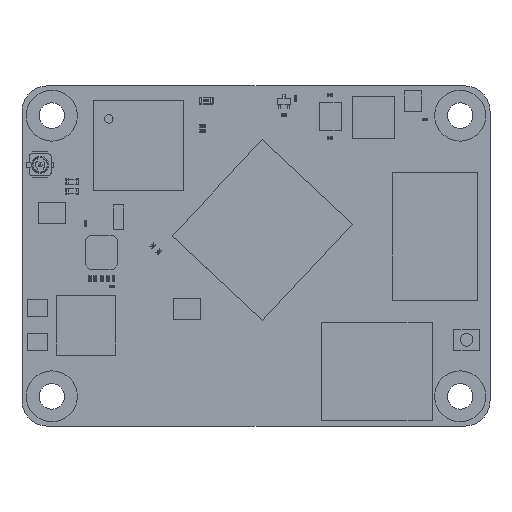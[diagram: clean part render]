
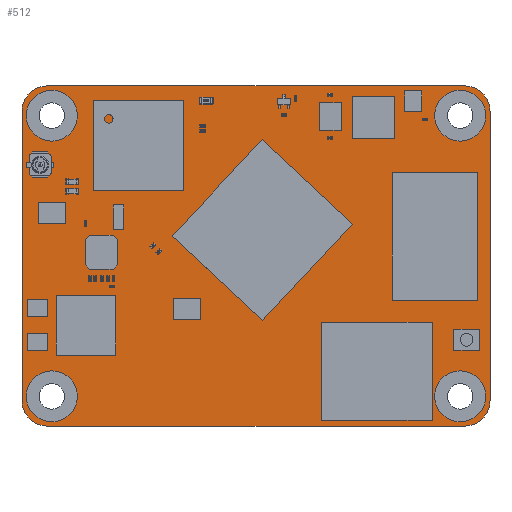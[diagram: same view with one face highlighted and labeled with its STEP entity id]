
A CAD part, top view. The second image highlights one B-rep face of the part: STEP entity #512.
In plain terms, the highlighted planar face has unit normal (0, 0, 1).
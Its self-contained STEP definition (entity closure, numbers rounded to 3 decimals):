
#40=CARTESIAN_POINT('',(3.5,36.5,1.2));
#41=DIRECTION('',(0.,0.,1.));
#42=DIRECTION('',(1.,0.,0.));
#43=AXIS2_PLACEMENT_3D('',#40,#41,#42);
#49=CARTESIAN_POINT('',(3.5,36.5,1.2));
#50=DIRECTION('',(0.,0.,1.));
#51=DIRECTION('',(-1.,0.,0.));
#52=AXIS2_PLACEMENT_3D('',#49,#50,#51);
#57=CARTESIAN_POINT('',(51.5,36.5,1.2));
#58=DIRECTION('',(0.,0.,1.));
#59=DIRECTION('',(1.,0.,0.));
#60=AXIS2_PLACEMENT_3D('',#57,#58,#59);
#65=CARTESIAN_POINT('',(51.5,36.5,1.2));
#66=DIRECTION('',(0.,0.,1.));
#67=DIRECTION('',(-1.,0.,0.));
#68=AXIS2_PLACEMENT_3D('',#65,#66,#67);
#73=CARTESIAN_POINT('',(3.5,3.5,1.2));
#74=DIRECTION('',(0.,0.,1.));
#75=DIRECTION('',(1.,0.,0.));
#76=AXIS2_PLACEMENT_3D('',#73,#74,#75);
#81=CARTESIAN_POINT('',(3.5,3.5,1.2));
#82=DIRECTION('',(0.,0.,1.));
#83=DIRECTION('',(-1.,0.,0.));
#84=AXIS2_PLACEMENT_3D('',#81,#82,#83);
#89=CARTESIAN_POINT('',(51.5,3.5,1.2));
#90=DIRECTION('',(0.,0.,1.));
#91=DIRECTION('',(1.,0.,0.));
#92=AXIS2_PLACEMENT_3D('',#89,#90,#91);
#97=CARTESIAN_POINT('',(51.5,3.5,1.2));
#98=DIRECTION('',(0.,0.,1.));
#99=DIRECTION('',(-1.,0.,0.));
#100=AXIS2_PLACEMENT_3D('',#97,#98,#99);
#105=DIRECTION('',(-1.,0.,0.));
#106=VECTOR('',#105,49.);
#107=CARTESIAN_POINT('',(52.,40.,1.2));
#108=LINE('',#107,#106);
#112=CARTESIAN_POINT('',(52.,37.,1.2));
#113=DIRECTION('',(0.,0.,-1.));
#114=DIRECTION('',(0.,1.,0.));
#115=AXIS2_PLACEMENT_3D('',#112,#113,#114);
#120=DIRECTION('',(0.,1.,0.));
#121=VECTOR('',#120,34.);
#122=CARTESIAN_POINT('',(55.,3.,1.2));
#123=LINE('',#122,#121);
#127=CARTESIAN_POINT('',(52.,3.,1.2));
#128=DIRECTION('',(0.,0.,-1.));
#129=DIRECTION('',(1.,0.,0.));
#130=AXIS2_PLACEMENT_3D('',#127,#128,#129);
#135=DIRECTION('',(1.,0.,0.));
#136=VECTOR('',#135,49.);
#137=CARTESIAN_POINT('',(3.,0.,1.2));
#138=LINE('',#137,#136);
#142=CARTESIAN_POINT('',(3.,3.,1.2));
#143=DIRECTION('',(0.,0.,-1.));
#144=DIRECTION('',(0.,-1.,0.));
#145=AXIS2_PLACEMENT_3D('',#142,#143,#144);
#150=DIRECTION('',(0.,-1.,0.));
#151=VECTOR('',#150,34.);
#152=CARTESIAN_POINT('',(0.,37.,1.2));
#153=LINE('',#152,#151);
#157=CARTESIAN_POINT('',(3.,37.,1.2));
#158=DIRECTION('',(0.,0.,-1.));
#159=DIRECTION('',(-1.,0.,0.));
#160=AXIS2_PLACEMENT_3D('',#157,#158,#159);
#417=CARTESIAN_POINT('',(5.,36.5,1.2));
#418=CARTESIAN_POINT('',(2.,36.5,1.2));
#419=VERTEX_POINT('',#417);
#420=VERTEX_POINT('',#418);
#421=CARTESIAN_POINT('',(53.,36.5,1.2));
#422=CARTESIAN_POINT('',(50.,36.5,1.2));
#423=VERTEX_POINT('',#421);
#424=VERTEX_POINT('',#422);
#425=CARTESIAN_POINT('',(5.,3.5,1.2));
#426=CARTESIAN_POINT('',(2.,3.5,1.2));
#427=VERTEX_POINT('',#425);
#428=VERTEX_POINT('',#426);
#429=CARTESIAN_POINT('',(53.,3.5,1.2));
#430=CARTESIAN_POINT('',(50.,3.5,1.2));
#431=VERTEX_POINT('',#429);
#432=VERTEX_POINT('',#430);
#449=CARTESIAN_POINT('',(52.,40.,1.2));
#450=CARTESIAN_POINT('',(3.,40.,1.2));
#451=VERTEX_POINT('',#449);
#452=VERTEX_POINT('',#450);
#453=CARTESIAN_POINT('',(0.,37.,1.2));
#454=VERTEX_POINT('',#453);
#455=CARTESIAN_POINT('',(0.,3.,1.2));
#456=VERTEX_POINT('',#455);
#457=CARTESIAN_POINT('',(3.,0.,1.2));
#458=VERTEX_POINT('',#457);
#459=CARTESIAN_POINT('',(52.,0.,1.2));
#460=VERTEX_POINT('',#459);
#461=CARTESIAN_POINT('',(55.,3.,1.2));
#462=VERTEX_POINT('',#461);
#463=CARTESIAN_POINT('',(55.,37.,1.2));
#464=VERTEX_POINT('',#463);
#465=CARTESIAN_POINT('',(-0.009,3.,1.2));
#466=DIRECTION('',(0.,0.,-1.));
#467=DIRECTION('',(-1.,0.,0.));
#468=AXIS2_PLACEMENT_3D('',#465,#466,#467);
#469=PLANE('',#468);
#471=ORIENTED_EDGE('',*,*,#470,.F.);
#473=ORIENTED_EDGE('',*,*,#472,.T.);
#475=ORIENTED_EDGE('',*,*,#474,.F.);
#477=ORIENTED_EDGE('',*,*,#476,.T.);
#479=ORIENTED_EDGE('',*,*,#478,.F.);
#481=ORIENTED_EDGE('',*,*,#480,.T.);
#483=ORIENTED_EDGE('',*,*,#482,.F.);
#485=ORIENTED_EDGE('',*,*,#484,.T.);
#486=EDGE_LOOP('',(#471,#473,#475,#477,#479,#481,#483,#485));
#487=FACE_OUTER_BOUND('',#486,.F.);
#489=ORIENTED_EDGE('',*,*,#488,.T.);
#491=ORIENTED_EDGE('',*,*,#490,.T.);
#492=EDGE_LOOP('',(#489,#491));
#493=FACE_BOUND('',#492,.F.);
#495=ORIENTED_EDGE('',*,*,#494,.T.);
#497=ORIENTED_EDGE('',*,*,#496,.T.);
#498=EDGE_LOOP('',(#495,#497));
#499=FACE_BOUND('',#498,.F.);
#501=ORIENTED_EDGE('',*,*,#500,.T.);
#503=ORIENTED_EDGE('',*,*,#502,.T.);
#504=EDGE_LOOP('',(#501,#503));
#505=FACE_BOUND('',#504,.F.);
#507=ORIENTED_EDGE('',*,*,#506,.T.);
#509=ORIENTED_EDGE('',*,*,#508,.T.);
#510=EDGE_LOOP('',(#507,#509));
#511=FACE_BOUND('',#510,.F.);
#512=ADVANCED_FACE('',(#487,#493,#499,#505,#511),#469,.F.);
#44=CIRCLE('',#43,1.5);
#53=CIRCLE('',#52,1.5);
#61=CIRCLE('',#60,1.5);
#69=CIRCLE('',#68,1.5);
#77=CIRCLE('',#76,1.5);
#85=CIRCLE('',#84,1.5);
#93=CIRCLE('',#92,1.5);
#101=CIRCLE('',#100,1.5);
#116=CIRCLE('',#115,3.);
#131=CIRCLE('',#130,3.);
#146=CIRCLE('',#145,3.);
#161=CIRCLE('',#160,3.);
#470=EDGE_CURVE('',#451,#452,#108,.T.);
#472=EDGE_CURVE('',#451,#464,#116,.T.);
#474=EDGE_CURVE('',#462,#464,#123,.T.);
#476=EDGE_CURVE('',#462,#460,#131,.T.);
#478=EDGE_CURVE('',#458,#460,#138,.T.);
#480=EDGE_CURVE('',#458,#456,#146,.T.);
#482=EDGE_CURVE('',#454,#456,#153,.T.);
#484=EDGE_CURVE('',#454,#452,#161,.T.);
#488=EDGE_CURVE('',#423,#424,#61,.T.);
#490=EDGE_CURVE('',#424,#423,#69,.T.);
#494=EDGE_CURVE('',#427,#428,#77,.T.);
#496=EDGE_CURVE('',#428,#427,#85,.T.);
#500=EDGE_CURVE('',#431,#432,#93,.T.);
#502=EDGE_CURVE('',#432,#431,#101,.T.);
#506=EDGE_CURVE('',#419,#420,#44,.T.);
#508=EDGE_CURVE('',#420,#419,#53,.T.);
